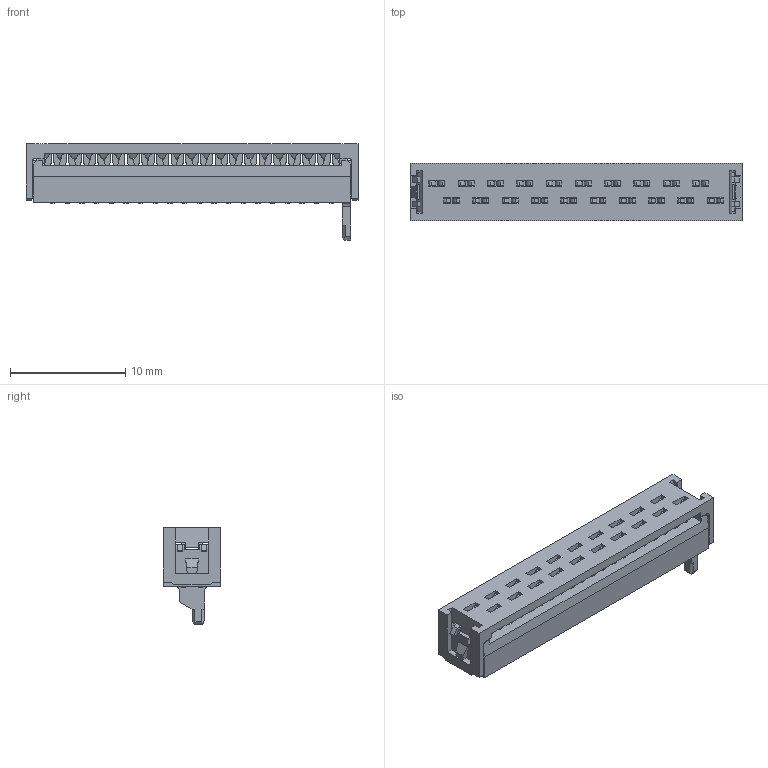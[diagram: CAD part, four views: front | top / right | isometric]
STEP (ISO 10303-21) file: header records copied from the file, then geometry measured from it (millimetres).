
FILE_DESCRIPTION((''),'2;1');
FILE_NAME('C-2-215083-0','2017-04-24T',('workeradm'),('Tyco Electronics Ltd.'),'CREO PARAMETRIC BY PTC INC, 2016050','CREO PARAMETRIC BY PTC INC, 2016050','');
FILE_SCHEMA(('AUTOMOTIVE_DESIGN { 1 0 10303 214 1 1 1 1 }'));
Length unit declared in the file: millimetre
Products named in the file (1): C-2-215083-0
Bounding box: 28.78 x 5 x 8.35 mm (x, y, z)
Volume: 389.4 mm3; surface area: 1276.2 mm2
Topology: 1 solids, 1 shells, 1081 faces, 3144 edges, 2081 vertices
Faces by surface type: plane 773, cylinder 308
Entity records: 36428 total; most frequent: CARTESIAN_POINT 7858, ORIENTED_EDGE 6288, DIRECTION 5394, EDGE_CURVE 3144, VECTOR 2328, LINE 2328, VERTEX_POINT 2081, AXIS2_PLACEMENT_3D 1533
